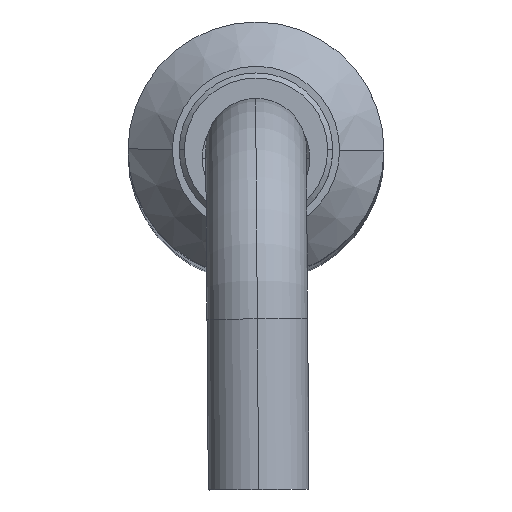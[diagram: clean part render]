
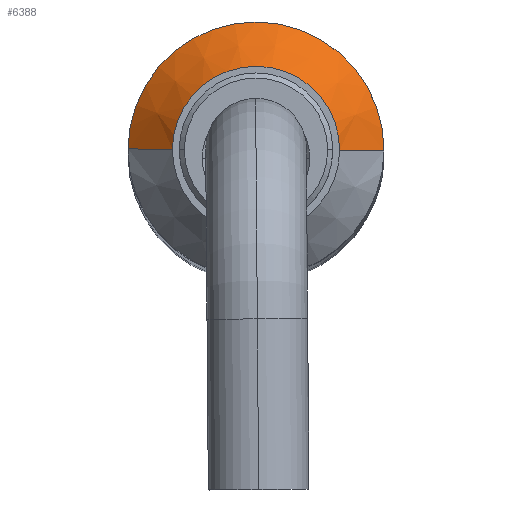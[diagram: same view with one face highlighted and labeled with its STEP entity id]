
A CAD part, top view. The second image highlights one B-rep face of the part: STEP entity #6388.
In plain terms, the highlighted conical face has half-angle 45 degrees and reference radius 7.5 mm.
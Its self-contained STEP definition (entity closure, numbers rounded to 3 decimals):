
#228 = EDGE_CURVE ( 'NONE', #9877, #10745, #5454, .T. ) ;
#815 = AXIS2_PLACEMENT_3D ( 'NONE', #3367, #1633, #8221 ) ;
#932 = VERTEX_POINT ( 'NONE', #5873 ) ;
#1181 = LINE ( 'NONE', #7476, #1482 ) ;
#1482 = VECTOR ( 'NONE', #9103, 1000. ) ;
#1633 = DIRECTION ( 'NONE',  ( -1., 0., 0. ) ) ;
#2183 = AXIS2_PLACEMENT_3D ( 'NONE', #2916, #7202, #3993 ) ;
#2610 = ORIENTED_EDGE ( 'NONE', *, *, #11831, .F. ) ;
#2823 = CONICAL_SURFACE ( 'NONE', #2183, 7.5, 0.785 ) ;
#2916 = CARTESIAN_POINT ( 'NONE',  ( 2.1, 0., 0. ) ) ;
#3245 = CARTESIAN_POINT ( 'NONE',  ( 2.1, 0., -7.5 ) ) ;
#3367 = CARTESIAN_POINT ( 'NONE',  ( 2.1, 0., 0. ) ) ;
#3779 = ORIENTED_EDGE ( 'NONE', *, *, #9853, .F. ) ;
#3993 = DIRECTION ( 'NONE',  ( 0., 0., -1. ) ) ;
#4377 = FACE_OUTER_BOUND ( 'NONE', #11476, .T. ) ;
#4467 = VERTEX_POINT ( 'NONE', #7380 ) ;
#4549 = VECTOR ( 'NONE', #7538, 1000. ) ;
#5454 = CIRCLE ( 'NONE', #815, 7.5 ) ;
#5652 = ORIENTED_EDGE ( 'NONE', *, *, #5687, .T. ) ;
#5687 = EDGE_CURVE ( 'NONE', #4467, #9877, #1181, .T. ) ;
#5873 = CARTESIAN_POINT ( 'NONE',  ( -0.5, 0., -4.9 ) ) ;
#6388 = ADVANCED_FACE ( 'NONE', ( #4377 ), #2823, .T. ) ;
#7202 = DIRECTION ( 'NONE',  ( 1., 0., 0. ) ) ;
#7380 = CARTESIAN_POINT ( 'NONE',  ( -0.5, 0., 4.9 ) ) ;
#7416 = AXIS2_PLACEMENT_3D ( 'NONE', #8669, #8665, #8650 ) ;
#7476 = CARTESIAN_POINT ( 'NONE',  ( 2.1, 0., 7.5 ) ) ;
#7538 = DIRECTION ( 'NONE',  ( 0.707, 0., -0.707 ) ) ;
#8153 = CIRCLE ( 'NONE', #7416, 4.9 ) ;
#8221 = DIRECTION ( 'NONE',  ( 0., 0., 1. ) ) ;
#8342 = ORIENTED_EDGE ( 'NONE', *, *, #228, .T. ) ;
#8538 = CARTESIAN_POINT ( 'NONE',  ( 2.1, 0., 7.5 ) ) ;
#8650 = DIRECTION ( 'NONE',  ( 0., 0., 1. ) ) ;
#8665 = DIRECTION ( 'NONE',  ( -1., 0., 0. ) ) ;
#8669 = CARTESIAN_POINT ( 'NONE',  ( -0.5, 0., 0. ) ) ;
#8932 = CARTESIAN_POINT ( 'NONE',  ( 2.1, 0., -7.5 ) ) ;
#9103 = DIRECTION ( 'NONE',  ( 0.707, 0., 0.707 ) ) ;
#9510 = LINE ( 'NONE', #3245, #4549 ) ;
#9853 = EDGE_CURVE ( 'NONE', #4467, #932, #8153, .T. ) ;
#9877 = VERTEX_POINT ( 'NONE', #8538 ) ;
#10745 = VERTEX_POINT ( 'NONE', #8932 ) ;
#11476 = EDGE_LOOP ( 'NONE', ( #3779, #5652, #8342, #2610 ) ) ;
#11831 = EDGE_CURVE ( 'NONE', #932, #10745, #9510, .T. ) ;
